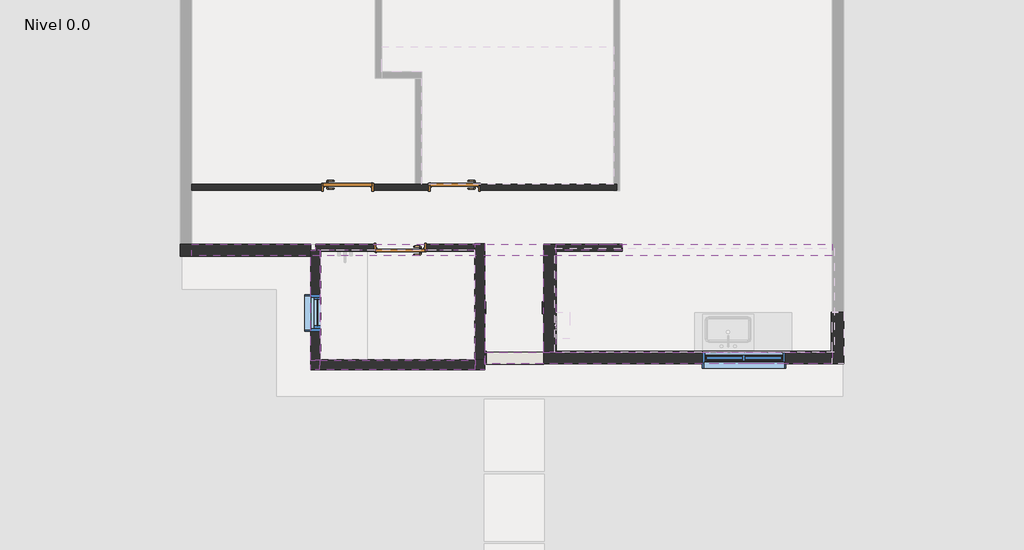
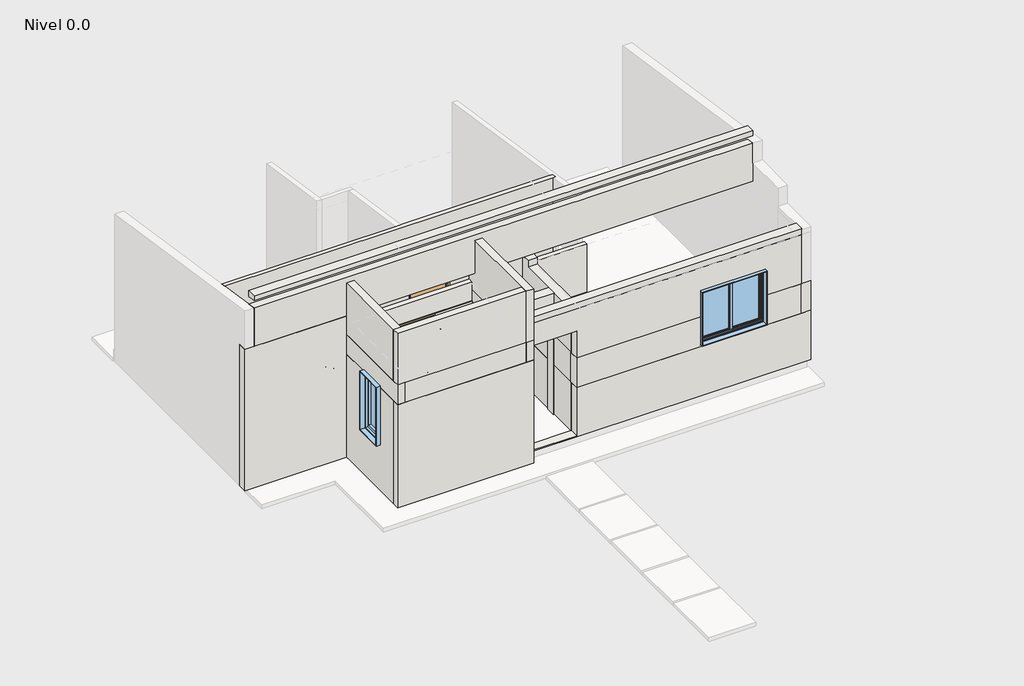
# One storey, part 1 of 2: 26 walls, 3 doors, 2 windows.
"""IFC4 building model written with IfcOpenShell, lengths in millimetres."""

from ifc_helpers import new_model, si_unit, frame, origin, place, context, project, spatial, polyline, outline, extrude, faceted_brep, transform, mapped, element, save
from components import puerta_interior_p3_a5072a38, puerta_interior_p3_e72d7386, puerta_interior_p3_27b4b05c, v2_0e290be6, ventana1_20x1_20_v1_a5540470

model = new_model("IFC4")

# Units and contexts
model_context = context("Model", 3, world=origin())
ifc_project = project(units=[si_unit("LENGTHUNIT", "METRE", prefix="MILLI")], contexts=[model_context])

# Site, building, storey
site = spatial("IfcSite", under=ifc_project)
building = spatial("IfcBuilding", under=site)
storey = spatial("IfcBuildingStorey", under=building, Name="Nivel 0.0", Elevation=0.0)

# Doors
placement = place(None, origin())
puerta_interior_p3_shape = puerta_interior_p3_a5072a38(model_context)
element("IfcDoor", 1, ObjectType="Puerta Interior : P3", at=placement, inside=storey, context=model_context, shape_type="MappedRepresentation", body=[
    mapped(puerta_interior_p3_shape, transform((-5709.8471251, -1687.7987, -0.816385), x_axis=(1.0, 0.0, 0.0), y_axis=(0.0, 1.0, 0.0), z_axis=(0.0, 0.0, 1.0))),
])
puerta_interior_p3_2_shape = puerta_interior_p3_e72d7386(model_context)
element("IfcDoor", 2, ObjectType="Puerta Interior : P3", at=placement, inside=storey, context=model_context, shape_type="MappedRepresentation", body=[
    mapped(puerta_interior_p3_2_shape, transform((-6497.085595, -782.2221748, -0.816385), x_axis=(-1.0, 0.0, 0.0), y_axis=(0.0, -1.0, 0.0), z_axis=(0.0, 0.0, 1.0))),
])
puerta_interior_p3_3_shape = puerta_interior_p3_27b4b05c(model_context)
element("IfcDoor", 3, ObjectType="Puerta Interior : P3", at=placement, inside=storey, context=model_context, shape_type="MappedRepresentation", body=[
    mapped(puerta_interior_p3_3_shape, transform((-4897.085595, -782.2221748, -0.816385), x_axis=(1.0, 0.0, 0.0), y_axis=(0.0, 1.0, 0.0), z_axis=(0.0, 0.0, 1.0))),
])

# Walls
element("IfcWall", 4, ObjectType="Pe-SF-002", at=placement, inside=storey, context=model_context, shape_type="Brep", body=[
    faceted_brep([(-9008.085471, -1812.5487, -175.0), (-7052.0136856, -1812.5487, -175.0), (-7052.0136856, -1812.5487, 2700.0), (-9008.085471, -1812.5487, 2700.0), (-9008.085471, -1634.5487, 2700.0), (-8830.085471, -1634.5487, 2700.0), (-7052.0136856, -1634.5487, 2700.0), (-7052.0136856, -1634.5487, -25.0), (-8830.085471, -1634.5487, -25.0), (-8953.085471, -1634.5487, -25.0), (-8953.085471, -1634.5487, -175.0), (-9008.085471, -1634.5487, -175.0), (-8953.085471, -1757.5487, -175.0), (-7052.0136856, -1757.5487, -175.0), (-9008.085471, -1812.0487, 2700.0), (-8953.085471, -1757.5487, -25.0), (-7052.0136856, -1723.5487, -25.0), (-7052.0136856, -1757.5487, -25.0)], [[[0, 1, 2, 3]], [[4, 5, 6, 7, 8, 9, 10, 11]], [[1, 0, 11, 10, 12, 13]], [[3, 2, 6, 5, 4, 14]], [[0, 3, 14, 4, 11]], [[15, 9, 8, 7, 16, 17]], [[15, 12, 10, 9]], [[12, 15, 17, 13]], [[2, 1, 13, 17, 16, 7, 6]]]),
])
element("IfcWall", 5, ObjectType="Pi-SF-050", at=placement, inside=storey, context=model_context, shape_type="Brep", body=[
    faceted_brep([(-2465.9684884, -829.7221748, 0.0), (-2465.9684884, -829.7221748, 3330.7697531), (-2513.4684884, -829.7221748, 3330.7697531), (-8830.085471, -829.7221748, 3330.7697531), (-8830.085471, -829.7221748, 0.0), (-6887.085595, -829.7221748, 0.0), (-6887.085595, -829.7221748, 2099.183615), (-6107.085595, -829.7221748, 2099.183615), (-6107.085595, -829.7221748, 0.0), (-5287.085595, -829.7221748, 0.0), (-5287.085595, -829.7221748, 2099.183615), (-4507.085595, -829.7221748, 2099.183615), (-4507.085595, -829.7221748, 0.0), (-2513.4684884, -829.7221748, 0.0), (-2465.9684884, -734.7221748, 3316.5197531), (-2465.9684884, -734.7221748, 0.0), (-2513.4684884, -734.7221748, 0.0), (-4507.085595, -734.7221748, 0.0), (-4507.085595, -734.7221748, 2099.183615), (-5287.085595, -734.7221748, 2099.183615), (-5287.085595, -734.7221748, 0.0), (-5389.585595, -734.7221748, 0.0), (-5484.585595, -734.7221748, 0.0), (-6107.085595, -734.7221748, 0.0), (-6107.085595, -734.7221748, 2099.183615), (-6887.085595, -734.7221748, 2099.183615), (-6887.085595, -734.7221748, 0.0), (-8830.085471, -734.7221748, 0.0), (-8830.085471, -734.7221748, 3316.5197531), (-5484.585595, -734.7221748, 3316.5197531), (-5389.585595, -734.7221748, 3316.5197531), (-2513.4684884, -734.7221748, 3316.5197531)], [[[0, 1, 2, 3, 4, 5, 6, 7, 8, 9, 10, 11, 12, 13]], [[14, 15, 16, 17, 18, 19, 20, 21, 22, 23, 24, 25, 26, 27, 28, 29, 30, 31]], [[5, 4, 27, 26]], [[8, 23, 22, 21, 20, 9]], [[15, 0, 13, 12, 17, 16]], [[1, 0, 15, 14]], [[3, 2, 1, 14, 31, 30, 29, 28]], [[6, 5, 26, 25]], [[7, 6, 25, 24]], [[8, 7, 24, 23]], [[11, 18, 17, 12]], [[18, 11, 10, 19]], [[19, 10, 9, 20]], [[4, 3, 28, 27]]]),
])
element("IfcWall", 6, ObjectType="Pe-SF-001", at=placement, inside=storey, context=model_context, shape_type="Brep", body=[
    faceted_brep([(-8830.085471, -1812.0487, 2700.0), (761.414529, -1812.0487, 2700.0), (761.414529, -1812.0487, 3478.1187319), (-8830.085471, -1812.0487, 3478.1187319), (761.414529, -1634.0487, 2700.0), (-8830.085471, -1634.0487, 2700.0), (-8830.085471, -1634.0487, 3451.4187319), (-2513.4684884, -1634.0487, 3451.4187319), (-2418.4684884, -1634.0487, 3451.4187319), (761.414529, -1634.0487, 3451.4187319), (-8830.085471, -1634.5487, 2700.0)], [[[0, 1, 2, 3]], [[4, 5, 6, 7, 8, 9]], [[3, 2, 9, 8, 7, 6]], [[1, 0, 10, 5, 4]], [[1, 4, 9, 2]], [[5, 10, 0, 3, 6]]]),
    faceted_brep([(761.414529, -1812.0487, 3728.2014168), (-8830.085471, -1812.0487, 3728.2014168), (-8830.085471, -1812.0487, 3633.8415947), (761.414529, -1812.0487, 3633.8415947), (-8830.085471, -1634.0487, 3728.2014168), (761.414529, -1634.0487, 3728.2014168), (761.414529, -1634.0487, 3607.1415947), (-8830.085471, -1634.0487, 3607.1415947)], [[[0, 1, 2, 3]], [[4, 5, 6, 7]], [[3, 2, 7, 6]], [[1, 0, 5, 4]], [[5, 0, 3, 6]], [[1, 4, 7, 2]]]),
])
element("IfcWall", 7, ObjectType="Pe-SF-006", at=placement, inside=storey, context=model_context, shape_type="Brep", body=[
    faceted_brep([(-7052.0136856, -3516.7853265, -175.0), (-4441.311969, -3516.7853265, -175.0), (-4441.311969, -3516.7853265, 1925.0), (-4581.311969, -3516.7853265, 1925.0), (-6912.0136856, -3516.7853265, 1925.0), (-7052.0136856, -3516.7853265, 1925.0), (-7052.0136856, -3364.7853265, 1925.0), (-6900.0136856, -3364.7853265, 1925.0), (-4593.311969, -3364.7853265, 1925.0), (-4441.311969, -3364.7853265, 1925.0), (-4441.311969, -3364.7853265, -25.0), (-6900.0136856, -3364.7853265, -25.0), (-7016.0136856, -3364.7853265, -25.0), (-7016.0136856, -3364.7853265, -175.0), (-7052.0136856, -3364.7853265, -175.0), (-7016.0136856, -3480.7853265, -175.0), (-4481.0136856, -3480.7853265, -175.0), (-4481.0136856, -3375.7853265, -175.0), (-4441.311969, -3375.7853265, -175.0), (-4481.0136856, -3480.7853265, -25.0), (-7016.0136856, -3480.7853265, -25.0), (-4441.311969, -3375.7853265, -25.0), (-4481.0136856, -3375.7853265, -25.0)], [[[0, 1, 2, 3, 4, 5]], [[6, 7, 8, 9, 10, 11, 12, 13, 14]], [[1, 0, 14, 13, 15, 16, 17, 18]], [[5, 4, 3, 2, 9, 8, 7, 6]], [[14, 0, 5, 6]], [[19, 20, 12, 11, 10, 21, 22]], [[20, 19, 16, 15]], [[20, 15, 13, 12]], [[17, 22, 21, 18]], [[19, 22, 17, 16]], [[9, 2, 1, 18, 21, 10]]]),
])
element("IfcWall", 8, ObjectType="Pe-SF-004", at=placement, inside=storey, context=model_context, shape_type="Brep", body=[
    faceted_brep([(-7052.0136856, -3516.7853265, 2325.0), (-6912.0136856, -3516.7853265, 2325.0), (-4586.311969, -3516.7853265, 2325.0), (-4586.311969, -3516.7853265, 3370.0), (-7052.0136856, -3516.7853265, 3370.0), (-7052.0136856, -3371.7853265, 2325.0), (-7052.0136856, -3371.7853265, 3370.0), (-6907.0136856, -3371.7853265, 3370.0), (-4586.311969, -3371.7853265, 3370.0), (-4586.311969, -3371.7853265, 2325.0), (-6907.0136856, -3371.7853265, 2325.0)], [[[0, 1, 2, 3, 4]], [[5, 6, 7, 8, 9, 10]], [[2, 1, 0, 5, 10, 9]], [[4, 3, 8, 7, 6]], [[2, 9, 8, 3]], [[0, 4, 6, 5]]]),
])
element("IfcWall", 9, ObjectType="Pe-SF-006", at=placement, inside=storey, context=model_context, shape_type="Brep", body=[
    faceted_brep([(-4441.311969, -1626.7853265, 1925.0), (-4441.311969, -3364.7853265, 1925.0), (-4441.311969, -3364.7853265, -25.0), (-4441.311969, -1626.7853265, -25.0), (-4593.311969, -3364.7853265, 1925.0), (-4593.311969, -1626.7853265, 1925.0), (-4593.311969, -1626.7853265, -25.0), (-4593.311969, -3364.7853265, -25.0), (-4581.311969, -1626.7853265, 1925.0)], [[[0, 1, 2, 3]], [[4, 5, 6, 7]], [[5, 8, 0, 3, 6]], [[1, 0, 8, 5, 4]], [[3, 2, 7, 6]], [[1, 4, 7, 2]]]),
])
element("IfcWall", 10, ObjectType="Pe-SF-004", at=placement, inside=storey, context=model_context, shape_type="Brep", body=[
    faceted_brep([(-4441.311969, -3516.7853265, 3370.0), (-4441.311969, -3516.7853265, 2325.0), (-4441.311969, -1626.7853265, 2325.0), (-4441.311969, -1626.7853265, 3370.0), (-4586.311969, -3516.7853265, 2325.0), (-4586.311969, -3516.7853265, 3370.0), (-4586.311969, -3371.7853265, 3370.0), (-4586.311969, -1626.7853265, 3370.0), (-4586.311969, -1626.7853265, 2325.0), (-4586.311969, -3371.7853265, 2325.0), (-4581.311969, -3516.7853265, 2325.0), (-4581.311969, -1626.7853265, 2325.0)], [[[0, 1, 2, 3]], [[4, 5, 6, 7, 8, 9]], [[2, 1, 10, 4, 9, 8, 11]], [[3, 2, 11, 8, 7]], [[0, 3, 7, 6, 5]], [[0, 5, 4, 10, 1]]]),
])
element("IfcWall", 11, ObjectType="Pe-SF-003", at=placement, inside=storey, context=model_context, shape_type="Brep", body=[
    faceted_brep([(939.414529, -3430.5487, 1000.0), (939.414529, -3252.5487, 1000.0), (939.414529, -2651.7853265, 1000.0), (939.414529, -2651.7853265, 1600.0), (939.414529, -3430.5487, 1600.0), (749.414529, -3430.5487, 1000.0), (749.414529, -3430.5487, 1600.0), (749.414529, -3240.5487, 1600.0), (749.414529, -2651.7853265, 1600.0), (749.414529, -2651.7853265, 1000.0), (749.414529, -3240.5487, 1000.0), (761.414529, -2651.7853265, 1000.0), (761.414529, -2651.7853265, 1600.0), (761.414529, -3430.5487, 1600.0)], [[[0, 1, 2, 3, 4]], [[5, 6, 7, 8, 9, 10]], [[2, 1, 0, 5, 10, 9, 11]], [[3, 2, 11, 9, 8, 12]], [[4, 3, 12, 8, 7, 6, 13]], [[0, 4, 13, 6, 5]]]),
])
element("IfcWall", 12, ObjectType="Pi-SF-051", at=placement, inside=storey, context=model_context, shape_type="Brep", body=[
    faceted_brep([(-4593.311969, -1741.5487, 0.0), (-4593.311969, -1741.5487, 2100.0), (-6912.0136856, -1741.5487, 2100.0), (-6912.0136856, -1741.5487, 1925.0), (-6900.0136856, -1741.5487, 1925.0), (-6900.0136856, -1741.5487, 0.0), (-6099.8471251, -1741.5487, 0.0), (-6099.8471251, -1741.5487, 2099.183615), (-5319.8471251, -1741.5487, 2099.183615), (-5319.8471251, -1741.5487, 0.0), (-4593.311969, -1634.0487, 2100.0), (-4593.311969, -1634.0487, 0.0), (-5319.8471251, -1634.0487, 0.0), (-5319.8471251, -1634.0487, 2099.183615), (-6099.8471251, -1634.0487, 2099.183615), (-6099.8471251, -1634.0487, 0.0), (-6976.0136856, -1634.0487, 0.0), (-6976.0136856, -1634.0487, 2100.0), (-6900.0136856, -1723.5487, 0.0), (-6976.0136856, -1723.5487, 0.0), (-4593.311969, -1729.0487, 2100.0), (-6976.0136856, -1723.5487, 2100.0), (-6912.0136856, -1723.5487, 2100.0), (-6912.0136856, -1729.0487, 2100.0), (-6900.0136856, -1723.5487, 1925.0), (-6912.0136856, -1723.5487, 1925.0)], [[[0, 1, 2, 3, 4, 5, 6, 7, 8, 9]], [[10, 11, 12, 13, 14, 15, 16, 17]], [[11, 0, 9, 12]], [[16, 15, 6, 5, 18, 19]], [[1, 0, 11, 10, 20]], [[10, 17, 21, 22, 23, 2, 1, 20]], [[17, 16, 19, 21]], [[8, 13, 12, 9]], [[13, 8, 7, 14]], [[14, 7, 6, 15]], [[5, 4, 24, 18]], [[24, 4, 3, 25]], [[18, 24, 25, 22, 21, 19]], [[22, 25, 3, 2, 23]]]),
])
element("IfcWall", 13, ObjectType="Pe-SF-002", at=placement, inside=storey, context=model_context, shape_type="SweptSolid", body=[
    extrude(outline(polyline([(2470.0, -4441.311969), (0.0, -4441.311969), (0.0, -4431.1346192), (2100.0, -4431.1346192), (2100.0, -3581.1346192), (0.0, -3581.1346192), (0.0, -3560.5136856), (2470.0, -3560.5136856), (2470.0, -4441.311969)])), frame((0.0, -2678.4025284, 0.0), z_axis=(0.0, 1.0, 0.0), x_axis=(0.0, 0.0, 1.0)), (0.0, 0.0, 1.0), 178.0),
])
element("IfcWall", 14, ObjectType="Pi-SF-050", at=placement, inside=storey, context=model_context, shape_type="Brep", body=[
    faceted_brep([(-4593.311969, -1729.0487, 2100.0), (-4593.311969, -1729.0487, 2477.1107105), (-6907.0136856, -1729.0487, 2477.1107105), (-6907.0136856, -1729.0487, 2325.0), (-6912.0136856, -1729.0487, 2325.0), (-6912.0136856, -1729.0487, 2100.0), (-4593.311969, -1634.0487, 2100.0), (-6976.0136856, -1634.0487, 2100.0), (-6976.0136856, -1634.0487, 2477.1107105), (-4593.311969, -1634.0487, 2477.1107105), (-6912.0136856, -1723.5487, 2100.0), (-6976.0136856, -1723.5487, 2100.0), (-6976.0136856, -1723.5487, 2477.1107105), (-6907.0136856, -1723.5487, 2477.1107105), (-6907.0136856, -1723.5487, 2325.0), (-6912.0136856, -1723.5487, 2325.0)], [[[0, 1, 2, 3, 4, 5]], [[6, 7, 8, 9]], [[7, 6, 0, 5, 10, 11]], [[1, 0, 6, 9]], [[9, 8, 12, 13, 2, 1]], [[8, 7, 11, 12]], [[14, 3, 2, 13]], [[14, 15, 4, 3]], [[15, 10, 5, 4]], [[10, 15, 14, 13, 12, 11]]]),
])
element("IfcWall", 15, ObjectType="Pe-SF-006", at=placement, inside=storey, context=model_context, shape_type="Brep", body=[
    faceted_brep([(-7052.0136856, -2934.2261407, 1925.0), (-7052.0136856, -2934.2261407, 762.0), (-7052.0136856, -2384.2261407, 762.0), (-7052.0136856, -2384.2261407, 1925.0), (-7052.0136856, -1723.5487, 1925.0), (-7052.0136856, -1723.5487, -25.0), (-7052.0136856, -1757.5487, -25.0), (-7052.0136856, -1757.5487, -175.0), (-7052.0136856, -1812.5487, -175.0), (-7052.0136856, -3364.7853265, -175.0), (-7052.0136856, -3364.7853265, 1925.0), (-6900.0136856, -2934.2261407, 762.0), (-6900.0136856, -2934.2261407, 1925.0), (-6900.0136856, -3364.7853265, 1925.0), (-6900.0136856, -3364.7853265, -25.0), (-6900.0136856, -1723.5487, -25.0), (-6900.0136856, -1723.5487, 0.0), (-6900.0136856, -1723.5487, 1925.0), (-6900.0136856, -1741.5487, 1925.0), (-6900.0136856, -2384.2261407, 1925.0), (-6900.0136856, -2384.2261407, 762.0), (-7016.0136856, -1757.5487, -175.0), (-7016.0136856, -3364.7853265, -175.0), (-6912.0136856, -2934.2261407, 1925.0), (-6912.0136856, -1723.5487, 1925.0), (-6912.0136856, -2384.2261407, 1925.0), (-7016.0136856, -3364.7853265, -25.0), (-7016.0136856, -1757.5487, -25.0)], [[[0, 1, 2, 3, 4, 5, 6, 7, 8, 9, 10]], [[11, 12, 13, 14, 15, 16, 17, 18, 19, 20]], [[9, 8, 7, 21, 22]], [[0, 10, 13, 12, 23]], [[17, 24, 4, 3, 25, 19, 18]], [[4, 24, 17, 16, 15, 5]], [[11, 1, 0, 23, 12]], [[2, 20, 19, 25, 3]], [[1, 11, 20, 2]], [[26, 27, 6, 5, 15, 14]], [[21, 27, 26, 22]], [[13, 10, 9, 22, 26, 14]], [[27, 21, 7, 6]]]),
])
element("IfcWall", 16, ObjectType="Pe-SF-004", at=placement, inside=storey, context=model_context, shape_type="Brep", body=[
    faceted_brep([(-7052.0136856, -1723.5487, 2325.0), (-7052.0136856, -3371.7853265, 2325.0), (-7052.0136856, -3371.7853265, 3370.0), (-7052.0136856, -1723.5487, 3370.0), (-6907.0136856, -1723.5487, 2325.0), (-6907.0136856, -1723.5487, 2477.1107105), (-6907.0136856, -1723.5487, 3370.0), (-6907.0136856, -3371.7853265, 3370.0), (-6907.0136856, -3371.7853265, 2325.0), (-6907.0136856, -1729.0487, 2325.0), (-6912.0136856, -1723.5487, 2325.0)], [[[0, 1, 2, 3]], [[4, 5, 6, 7, 8, 9]], [[1, 0, 10, 4, 9, 8]], [[3, 2, 7, 6]], [[0, 3, 6, 5, 4, 10]], [[2, 1, 8, 7]]]),
])
element("IfcWall", 17, ObjectType="Pe-SF-005", at=placement, inside=storey, context=model_context, shape_type="Brep", body=[
    faceted_brep([(-7052.0136856, -3516.7853265, 2325.0), (-7052.0136856, -3371.7853265, 2325.0), (-7052.0136856, -1723.5487, 2325.0), (-7052.0136856, -1723.5487, 1925.0), (-7052.0136856, -2384.2261407, 1925.0), (-7052.0136856, -2384.2261407, 1962.0), (-7052.0136856, -2934.2261407, 1962.0), (-7052.0136856, -2934.2261407, 1925.0), (-7052.0136856, -3364.7853265, 1925.0), (-7052.0136856, -3516.7853265, 1925.0), (-6912.0136856, -1723.5487, 2325.0), (-6912.0136856, -1729.0487, 2325.0), (-6912.0136856, -3376.7853265, 2325.0), (-6912.0136856, -3516.7853265, 2325.0), (-6912.0136856, -3516.7853265, 1925.0), (-6912.0136856, -3376.7853265, 1925.0), (-6912.0136856, -2934.2261407, 1925.0), (-6912.0136856, -2934.2261407, 1962.0), (-6912.0136856, -2384.2261407, 1962.0), (-6912.0136856, -2384.2261407, 1925.0), (-6912.0136856, -1741.5487, 1925.0), (-6912.0136856, -1723.5487, 1925.0), (-6912.0136856, -1723.5487, 2100.0)], [[[0, 1, 2, 3, 4, 5, 6, 7, 8, 9]], [[10, 11, 12, 13, 14, 15, 16, 17, 18, 19, 20, 21, 22]], [[14, 9, 8, 7, 16, 15]], [[3, 21, 20, 19, 4]], [[2, 1, 0, 13, 12, 11, 10]], [[3, 2, 10, 22, 21]], [[9, 14, 13, 0]], [[6, 17, 16, 7]], [[17, 6, 5, 18]], [[18, 5, 4, 19]]]),
])
element("IfcWall", 18, ObjectType="Pe-SF-005", at=placement, inside=storey, context=model_context, shape_type="Brep", body=[
    faceted_brep([(-4441.311969, -3516.7853265, 1925.0), (-4441.311969, -3364.7853265, 1925.0), (-4441.311969, -1626.7853265, 1925.0), (-4441.311969, -1626.7853265, 2325.0), (-4441.311969, -3516.7853265, 2325.0), (-4581.311969, -3516.7853265, 1925.0), (-4581.311969, -3516.7853265, 2325.0), (-4581.311969, -3376.7853265, 2325.0), (-4581.311969, -1626.7853265, 2325.0), (-4581.311969, -1626.7853265, 1925.0), (-4581.311969, -3376.7853265, 1925.0)], [[[0, 1, 2, 3, 4]], [[5, 6, 7, 8, 9, 10]], [[2, 1, 0, 5, 10, 9]], [[3, 2, 9, 8]], [[4, 3, 8, 7, 6]], [[0, 4, 6, 5]]]),
])
element("IfcWall", 19, ObjectType="Pe-SF-005", at=placement, inside=storey, context=model_context, shape_type="Brep", body=[
    faceted_brep([(-6912.0136856, -3516.7853265, 1925.0), (-4581.311969, -3516.7853265, 1925.0), (-4581.311969, -3516.7853265, 2325.0), (-4586.311969, -3516.7853265, 2325.0), (-6912.0136856, -3516.7853265, 2325.0), (-6912.0136856, -3376.7853265, 1925.0), (-6912.0136856, -3376.7853265, 2325.0), (-4581.311969, -3376.7853265, 2325.0), (-4581.311969, -3376.7853265, 1925.0)], [[[0, 1, 2, 3, 4]], [[5, 6, 7, 8]], [[1, 0, 5, 8]], [[4, 3, 2, 7, 6]], [[2, 1, 8, 7]], [[0, 4, 6, 5]]]),
])
element("IfcWall", 20, ObjectType="Pi-SF-050", at=placement, inside=storey, context=model_context, shape_type="Brep", body=[
    faceted_brep([(-3382.5136856, -1729.0487, 0.0), (-2380.9684884, -1729.0487, 0.0), (-2380.9684884, -1729.0487, 900.0), (-3382.5136856, -1729.0487, 900.0), (-3382.5136856, -1634.0487, 0.0), (-3382.5136856, -1634.0487, 900.0), (-2380.9684884, -1634.0487, 900.0), (-2380.9684884, -1634.0487, 0.0), (-2418.4684884, -1634.0487, 0.0), (-2513.4684884, -1634.0487, 0.0)], [[[0, 1, 2, 3]], [[4, 5, 6, 7, 8, 9]], [[1, 0, 4, 9, 8, 7]], [[2, 1, 7, 6]], [[3, 2, 6, 5]], [[0, 3, 5, 4]]]),
])
element("IfcWall", 21, ObjectType="Pi-SF-051", at=placement, inside=storey, context=model_context, shape_type="Brep", body=[
    faceted_brep([(-3382.5136856, -1741.5487, 900.0), (-2380.9684884, -1741.5487, 900.0), (-2380.9684884, -1741.5487, 1500.0), (-3370.5136856, -1741.5487, 1500.0), (-3370.5136856, -1741.5487, 1000.0), (-3382.5136856, -1741.5487, 1000.0), (-3382.5136856, -1634.0487, 900.0), (-3382.5136856, -1634.0487, 1000.0), (-3370.5136856, -1634.0487, 1000.0), (-3370.5136856, -1634.0487, 1500.0), (-2380.9684884, -1634.0487, 1500.0), (-2380.9684884, -1634.0487, 900.0), (-3382.5136856, -1729.0487, 900.0), (-2380.9684884, -1729.0487, 900.0), (-2380.9684884, -1729.0487, 1500.0), (-3370.5136856, -1729.0487, 1500.0)], [[[0, 1, 2, 3, 4, 5]], [[6, 7, 8, 9, 10, 11]], [[1, 0, 12, 6, 11, 13]], [[2, 1, 13, 11, 10, 14]], [[3, 2, 14, 10, 9, 15]], [[4, 8, 7, 5]], [[0, 5, 7, 6, 12]], [[4, 3, 15, 9, 8]]]),
])
element("IfcWall", 22, ObjectType="Pi-SF-050", at=placement, inside=storey, context=model_context, shape_type="SweptSolid", body=[
    extrude(outline(polyline([(1500.0, -3370.5136856), (1500.0, -2380.9684884), (2470.0, -2380.9684884), (2470.0, -3382.5136856), (1600.0, -3382.5136856), (1600.0, -3370.5136856), (1500.0, -3370.5136856)])), frame((0.0, -1729.0487, 0.0), z_axis=(0.0, 1.0, 0.0), x_axis=(0.0, 0.0, 1.0)), (0.0, 0.0, 1.0), 95.0),
])
element("IfcWall", 23, ObjectType="Pe-SF-003", at=placement, inside=storey, context=model_context, shape_type="Brep", body=[
    faceted_brep([(-3560.5136856, -1634.0487, 1600.0), (-3560.5136856, -1634.0487, 1000.0), (-3560.5136856, -3240.5487, 1000.0), (-3560.5136856, -3240.5487, 1600.0), (-3370.5136856, -1634.0487, 1000.0), (-3370.5136856, -1634.0487, 1500.0), (-3370.5136856, -1634.0487, 1600.0), (-3370.5136856, -1729.0487, 1600.0), (-3370.5136856, -3240.5487, 1600.0), (-3370.5136856, -3240.5487, 1000.0), (-3370.5136856, -1741.5487, 1000.0), (-3382.5136856, -1634.0487, 1000.0), (-3382.5136856, -1634.0487, 1600.0)], [[[0, 1, 2, 3]], [[4, 5, 6, 7, 8, 9, 10]], [[2, 1, 11, 4, 10, 9]], [[0, 12, 6, 5, 4, 11, 1]], [[0, 3, 8, 7, 6, 12]], [[3, 2, 9, 8]]]),
])
element("IfcWall", 24, ObjectType="Pe-SF-002", at=placement, inside=storey, context=model_context, shape_type="Brep", body=[
    faceted_brep([(-3560.5136856, -1634.0487, 1000.0), (-3560.5136856, -1634.0487, 0.0), (-3560.5136856, -2500.4025284, 0.0), (-3560.5136856, -2678.4025284, 0.0), (-3560.5136856, -3252.5487, 0.0), (-3560.5136856, -3252.5487, 1000.0), (-3560.5136856, -3240.5487, 1000.0), (-3382.5136856, -1634.0487, 0.0), (-3382.5136856, -1634.0487, 900.0), (-3382.5136856, -1634.0487, 1000.0), (-3382.5136856, -1741.5487, 1000.0), (-3382.5136856, -3252.5487, 1000.0), (-3382.5136856, -3252.5487, 0.0), (-3382.5136856, -1729.0487, 0.0)], [[[0, 1, 2, 3, 4, 5, 6]], [[7, 8, 9, 10, 11, 12, 13]], [[4, 3, 2, 1, 7, 13, 12]], [[0, 9, 8, 7, 1]], [[0, 6, 5, 11, 10, 9]], [[5, 4, 12, 11]]]),
])
element("IfcWall", 25, ObjectType="Pe-SF-003", at=placement, inside=storey, context=model_context, shape_type="Brep", body=[
    faceted_brep([(-4441.311969, -3430.5487, 1600.0), (-4441.311969, -3430.5487, 1000.0), (-4422.1370934, -3430.5487, 1000.0), (-4422.1370934, -3430.5487, 1600.0), (-4441.311969, -3240.5487, 1000.0), (-4441.311969, -3240.5487, 1600.0), (-4422.1370934, -3240.5487, 1600.0), (-4422.1370934, -3240.5487, 1000.0), (-4441.311969, -3252.5487, 1000.0), (-4422.1370934, -3252.5487, 1000.0), (-4441.311969, -3252.5487, 1600.0), (-4422.1370934, -3252.5487, 1600.0)], [[[0, 1, 2, 3]], [[4, 5, 6, 7]], [[1, 8, 4, 7, 9, 2]], [[5, 10, 0, 3, 11, 6]], [[1, 0, 10, 5, 4, 8]], [[3, 2, 9, 7, 6, 11]]]),
    faceted_brep([(-3562.1370934, -3430.5487, 1000.0), (749.414529, -3430.5487, 1000.0), (749.414529, -3430.5487, 1600.0), (62.4483442, -3430.5487, 1600.0), (62.4483442, -3430.5487, 1040.0), (-1187.5516558, -3430.5487, 1040.0), (-1187.5516558, -3430.5487, 1600.0), (-3562.1370934, -3430.5487, 1600.0), (749.414529, -3240.5487, 1000.0), (-3370.5136856, -3240.5487, 1000.0), (-3560.5136856, -3240.5487, 1000.0), (-3562.1370934, -3240.5487, 1000.0), (-3562.1370934, -3240.5487, 1600.0), (-3560.5136856, -3240.5487, 1600.0), (-3370.5136856, -3240.5487, 1600.0), (-1187.5516558, -3240.5487, 1600.0), (-1187.5516558, -3240.5487, 1040.0), (62.4483442, -3240.5487, 1040.0), (62.4483442, -3240.5487, 1600.0), (749.414529, -3240.5487, 1600.0), (-3562.1370934, -3252.5487, 1000.0), (62.4483442, -3252.5487, 1600.0), (-3562.1370934, -3252.5487, 1600.0), (-1187.5516558, -3252.5487, 1600.0)], [[[0, 1, 2, 3, 4, 5, 6, 7]], [[8, 9, 10, 11, 12, 13, 14, 15, 16, 17, 18, 19]], [[8, 1, 0, 20, 11, 10, 9]], [[2, 19, 18, 21, 3]], [[12, 22, 7, 6, 23, 15, 14, 13]], [[0, 7, 22, 12, 11, 20]], [[17, 4, 3, 21, 18]], [[5, 16, 15, 23, 6]], [[4, 17, 16, 5]], [[1, 8, 19, 2]]]),
])
element("IfcWall", 26, ObjectType="Pe-SF-002", at=placement, inside=storey, context=model_context, shape_type="Brep", body=[
    faceted_brep([(-4441.311969, -3430.5487, 0.0), (939.414529, -3430.5487, 0.0), (939.414529, -3430.5487, 1000.0), (749.414529, -3430.5487, 1000.0), (-3562.1370934, -3430.5487, 1000.0), (-3562.1370934, -3430.5487, 20.0028067), (-4422.1370934, -3430.5487, 20.0028067), (-4422.1370934, -3430.5487, 1000.0), (-4441.311969, -3430.5487, 1000.0), (939.414529, -3252.5487, 0.0), (761.414529, -3252.5487, 0.0), (-3382.5136856, -3252.5487, 0.0), (-3560.5136856, -3252.5487, 0.0), (-4441.311969, -3252.5487, 0.0), (-4441.311969, -3252.5487, 1000.0), (-4422.1370934, -3252.5487, 1000.0), (-4422.1370934, -3252.5487, 20.0028067), (-3562.1370934, -3252.5487, 20.0028067), (-3562.1370934, -3252.5487, 1000.0), (-3560.5136856, -3252.5487, 1000.0), (-3382.5136856, -3252.5487, 1000.0), (761.414529, -3252.5487, 1000.0), (939.414529, -3252.5487, 1000.0)], [[[0, 1, 2, 3, 4, 5, 6, 7, 8]], [[9, 10, 11, 12, 13, 14, 15, 16, 17, 18, 19, 20, 21, 22]], [[1, 0, 13, 12, 11, 10, 9]], [[2, 22, 21, 20, 19, 18, 4, 3]], [[14, 8, 7, 15]], [[2, 1, 9, 22]], [[0, 8, 14, 13]], [[17, 5, 4, 18]], [[5, 17, 16, 6]], [[6, 16, 15, 7]]]),
])
element("IfcWall", 27, ObjectType="Pe-SF-002", at=placement, inside=storey, context=model_context, shape_type="Brep", body=[
    faceted_brep([(761.414529, -3430.5487, 2600.0), (-4441.311969, -3430.5487, 2600.0), (-4441.311969, -3430.5487, 1600.0), (-4422.1370934, -3430.5487, 1600.0), (-4422.1370934, -3430.5487, 2146.5062616), (-3562.1370934, -3430.5487, 2146.5062616), (-3562.1370934, -3430.5487, 1600.0), (-1187.5516558, -3430.5487, 1600.0), (-1187.5516558, -3430.5487, 2140.0), (62.4483442, -3430.5487, 2140.0), (62.4483442, -3430.5487, 1600.0), (749.414529, -3430.5487, 1600.0), (761.414529, -3430.5487, 1600.0), (-4441.311969, -3252.5487, 2600.0), (761.414529, -3252.5487, 2600.0), (761.414529, -3252.5487, 1600.0), (62.4483442, -3252.5487, 1600.0), (62.4483442, -3252.5487, 2140.0), (-1187.5516558, -3252.5487, 2140.0), (-1187.5516558, -3252.5487, 1600.0), (-3382.5136856, -3252.5487, 1600.0), (-3560.5136856, -3252.5487, 1600.0), (-3562.1370934, -3252.5487, 1600.0), (-3562.1370934, -3252.5487, 2146.5062616), (-4422.1370934, -3252.5487, 2146.5062616), (-4422.1370934, -3252.5487, 1600.0), (-4441.311969, -3252.5487, 1600.0)], [[[0, 1, 2, 3, 4, 5, 6, 7, 8, 9, 10, 11, 12]], [[13, 14, 15, 16, 17, 18, 19, 20, 21, 22, 23, 24, 25, 26]], [[15, 12, 11, 10, 16]], [[2, 26, 25, 3]], [[6, 22, 21, 20, 19, 7]], [[1, 0, 14, 13]], [[26, 2, 1, 13]], [[24, 4, 3, 25]], [[4, 24, 23, 5]], [[5, 23, 22, 6]], [[9, 17, 16, 10]], [[17, 9, 8, 18]], [[18, 8, 7, 19]], [[12, 15, 14, 0]]]),
])
element("IfcWall", 28, ObjectType="Pe-SF-002", at=placement, inside=storey, context=model_context, shape_type="Brep", body=[
    faceted_brep([(-3560.5136856, -1634.0487, 1600.0), (-3560.5136856, -3240.5487, 1600.0), (-3560.5136856, -3252.5487, 1600.0), (-3560.5136856, -3252.5487, 2470.0), (-3560.5136856, -2678.4025284, 2470.0), (-3560.5136856, -2500.4025284, 2470.0), (-3560.5136856, -1812.0487, 2470.0), (-3560.5136856, -1812.0487, 2600.0), (-3560.5136856, -1634.0487, 2600.0), (-3382.5136856, -1634.0487, 1600.0), (-3382.5136856, -1634.0487, 2470.0), (-3382.5136856, -1634.0487, 2600.0), (-3382.5136856, -1812.0487, 2600.0), (-3382.5136856, -1812.0487, 2470.0), (-3382.5136856, -3252.5487, 2470.0), (-3382.5136856, -3252.5487, 1600.0), (-3382.5136856, -1729.0487, 1600.0)], [[[0, 1, 2, 3, 4, 5, 6, 7, 8]], [[9, 10, 11, 12, 13, 14, 15, 16]], [[2, 1, 0, 9, 16, 15]], [[0, 8, 11, 10, 9]], [[8, 7, 12, 11]], [[12, 7, 6, 13]], [[6, 5, 4, 3, 14, 13]], [[3, 2, 15, 14]]]),
])
element("IfcWall", 29, ObjectType="Pe-SF-001", at=placement, inside=storey, context=model_context, shape_type="Brep", body=[
    faceted_brep([(-4441.311969, -3430.5487, 2600.0), (761.414529, -3430.5487, 2600.0), (761.414529, -3430.5487, 2700.0), (761.414529, -3430.5487, 2720.0), (-4441.311969, -3430.5487, 2720.0), (-4441.311969, -3252.5487, 2600.0), (-4441.311969, -3252.5487, 2720.0), (761.414529, -3252.5487, 2720.0), (761.414529, -3252.5487, 2600.0)], [[[0, 1, 2, 3, 4]], [[5, 6, 7, 8]], [[1, 0, 5, 8]], [[4, 3, 7, 6]], [[3, 2, 1, 8, 7]], [[0, 4, 6, 5]]]),
])

# Windows
v2_shape = v2_0e290be6(model_context)
element("IfcWindow", 30, ObjectType="Ventana batiente horizontal V2 : V2", at=placement, inside=storey, context=model_context, shape_type="MappedRepresentation", body=[
    mapped(v2_shape, transform((-6976.0136856, -2658.0487, 0.0), x_axis=(0.0, 1.0, 0.0), y_axis=(-1.0, 0.0, 0.0), z_axis=(0.0, 0.0, 1.0))),
])
ventana1_20x1_20_v1_shape = ventana1_20x1_20_v1_a5540470(model_context)
element("IfcWindow", 31, ObjectType="Ventana1,20x1.20 : V1", at=placement, inside=storey, context=model_context, shape_type="MappedRepresentation", body=[
    mapped(ventana1_20x1_20_v1_shape, transform((-560.9684884, -3335.5487, 0.0), x_axis=(-1.0, 0.0, 0.0), y_axis=(0.0, -1.0, 0.0), z_axis=(0.0, 0.0, 1.0))),
])

save(model, "model.ifc")
